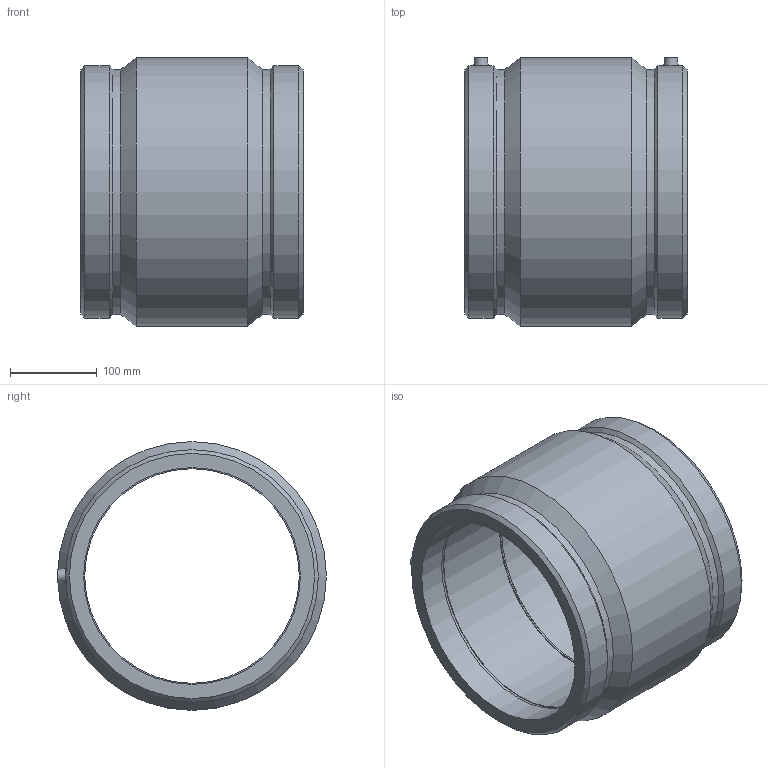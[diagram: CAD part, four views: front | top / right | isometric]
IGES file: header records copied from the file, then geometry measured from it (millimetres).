
Global section: file name: 450104250.ipt; native system: Autodesk Inventor 2015; preprocessor: unknown; author: KIM; date: 20171106.093357; units: millimetre
Bounding box: 256 x 310 x 310 mm (x, y, z)
Volume: 5604548.3 mm3; surface area: 490358.8 mm2
Topology: 1 solids, 1 shells, 36 faces, 80 edges, 54 vertices
Faces by surface type: plane 12, revolution 9, cone 8, cylinder 7
Full cylindrical faces by diameter (mm): 4 x2, 282.658 x2, 291.4 x2, 310 x1
